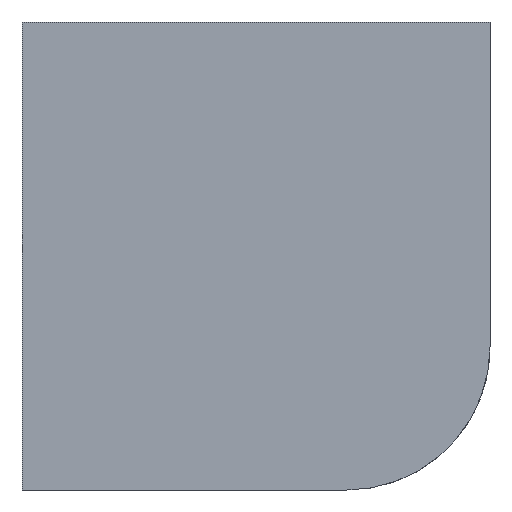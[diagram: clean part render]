
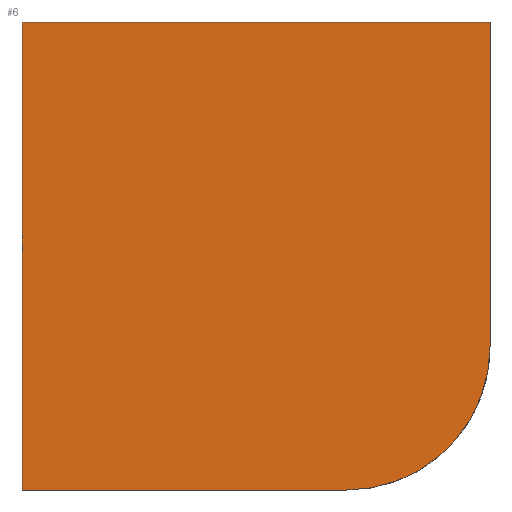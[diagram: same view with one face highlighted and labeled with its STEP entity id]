
A CAD part, left-side view. The second image highlights one B-rep face of the part: STEP entity #6.
In plain terms, the highlighted planar face has unit normal (-1, 0, 0).
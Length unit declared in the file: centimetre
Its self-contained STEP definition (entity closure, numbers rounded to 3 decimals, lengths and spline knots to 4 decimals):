
#6 = ADVANCED_FACE ( 'NONE', ( #146 ), #325, .F. ) ;
#12 = CARTESIAN_POINT ( 'NONE',  ( 0., 1000., 1000. ) ) ;
#16 = CARTESIAN_POINT ( 'NONE',  ( 0., 0., 1000. ) ) ;
#30 = CARTESIAN_POINT ( 'NONE',  ( 0., 0., 305.9356 ) ) ;
#32 = DIRECTION ( 'NONE',  ( 0., -1., 0. ) ) ;
#43 = DIRECTION ( 'NONE',  ( 0., 0., -1. ) ) ;
#50 = DIRECTION ( 'NONE',  ( 1., 0., 0. ) ) ;
#57 = LINE ( 'NONE', #404, #352 ) ;
#67 = AXIS2_PLACEMENT_3D ( 'NONE', #434, #224, #124 ) ;
#101 = EDGE_CURVE ( 'NONE', #436, #426, #424, .T. ) ;
#109 = ORIENTED_EDGE ( 'NONE', *, *, #235, .F. ) ;
#124 = DIRECTION ( 'NONE',  ( 0., 0., -1. ) ) ;
#130 = DIRECTION ( 'NONE',  ( 0., -1., 0. ) ) ;
#134 = CARTESIAN_POINT ( 'NONE',  ( 0., 1000., 1000. ) ) ;
#142 = VERTEX_POINT ( 'NONE', #189 ) ;
#146 = FACE_OUTER_BOUND ( 'NONE', #243, .T. ) ;
#147 = ORIENTED_EDGE ( 'NONE', *, *, #430, .F. ) ;
#155 = DIRECTION ( 'NONE',  ( 0., 0., -1. ) ) ;
#167 = EDGE_CURVE ( 'NONE', #426, #142, #57, .T. ) ;
#185 = ORIENTED_EDGE ( 'NONE', *, *, #167, .T. ) ;
#189 = CARTESIAN_POINT ( 'NONE',  ( 0., 305.9356, 0. ) ) ;
#194 = VECTOR ( 'NONE', #43, 100. ) ;
#196 = CARTESIAN_POINT ( 'NONE',  ( 0., 1000., 0. ) ) ;
#216 = CARTESIAN_POINT ( 'NONE',  ( 0., 1000., 1000. ) ) ;
#224 = DIRECTION ( 'NONE',  ( -1., 0., 0. ) ) ;
#235 = EDGE_CURVE ( 'NONE', #390, #350, #327, .T. ) ;
#240 = EDGE_CURVE ( 'NONE', #142, #350, #288, .T. ) ;
#243 = EDGE_LOOP ( 'NONE', ( #185, #360, #109, #147, #393 ) ) ;
#275 = AXIS2_PLACEMENT_3D ( 'NONE', #216, #50, #285 ) ;
#285 = DIRECTION ( 'NONE',  ( 0., 0., -1. ) ) ;
#288 = CIRCLE ( 'NONE', #67, 305.9356 ) ;
#325 = PLANE ( 'NONE',  #275 ) ;
#327 = LINE ( 'NONE', #16, #354 ) ;
#336 = LINE ( 'NONE', #134, #400 ) ;
#350 = VERTEX_POINT ( 'NONE', #30 ) ;
#352 = VECTOR ( 'NONE', #130, 100. ) ;
#354 = VECTOR ( 'NONE', #155, 100. ) ;
#360 = ORIENTED_EDGE ( 'NONE', *, *, #240, .T. ) ;
#375 = CARTESIAN_POINT ( 'NONE',  ( 0., 0., 1000. ) ) ;
#390 = VERTEX_POINT ( 'NONE', #375 ) ;
#393 = ORIENTED_EDGE ( 'NONE', *, *, #101, .T. ) ;
#400 = VECTOR ( 'NONE', #32, 100. ) ;
#404 = CARTESIAN_POINT ( 'NONE',  ( 0., 1000., 0. ) ) ;
#418 = CARTESIAN_POINT ( 'NONE',  ( 0., 1000., 1000. ) ) ;
#424 = LINE ( 'NONE', #12, #194 ) ;
#426 = VERTEX_POINT ( 'NONE', #196 ) ;
#430 = EDGE_CURVE ( 'NONE', #436, #390, #336, .T. ) ;
#434 = CARTESIAN_POINT ( 'NONE',  ( 0., 305.9356, 305.9356 ) ) ;
#436 = VERTEX_POINT ( 'NONE', #418 ) ;
